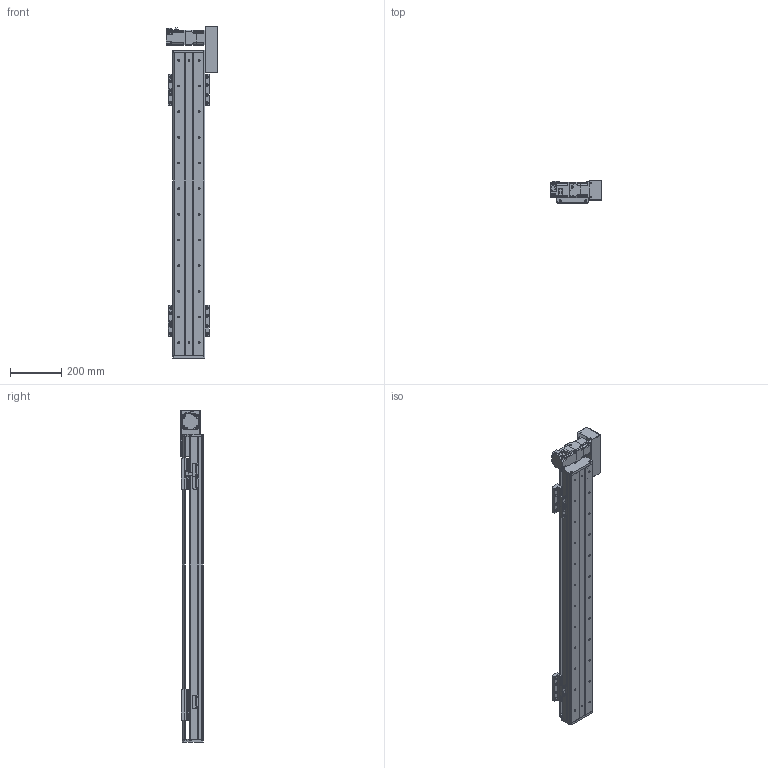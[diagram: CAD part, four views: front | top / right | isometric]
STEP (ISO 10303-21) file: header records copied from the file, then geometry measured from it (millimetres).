
FILE_DESCRIPTION(/* description */ (''),/* implementation_level */ '2;1');
FILE_NAME(/* name */ 'C:\Users\PC\Desktop\3D도면\STEP\STEP\DSB125-R2G-W0900-L.stp',/* time_stamp */ '2018-06-13T15:57:44+09:00',/* author */ ('PC'),/* organization */ (''),/* preprocessor_version */ 'ST-DEVELOPER v16.5',/* originating_system */ 'Autodesk Inventor 2017',/* authorisation */ '');
FILE_SCHEMA (('AUTOMOTIVE_DESIGN { 1 0 10303 214 3 1 1 }'));
Length unit declared in the file: millimetre
Products named in the file (12): DSB125-L2G-W0900-R_MIR; DSB125-BASE_MIR; DSB125-FRONT COVER_MIR; DSB125-REAR COVER_MIR; DSB125-UP COVER_MIR; DSB125-TABLE(MSB15S)_MIR; hg-kr23__MIR; ab0601-p0401200402_MIR; 13-BELT COVER_MIR; DSR125-SENSOR DOG_MIR; pm-y65_step_MIR; SENSOR BRACKET(EE-SX674A)_MIR
Assembly tree (16 placements, depth 2):
  DSB125-L2G-W0900-R_MIR
    DSB125-BASE_MIR
    DSB125-FRONT COVER_MIR
    DSB125-REAR COVER_MIR
    DSB125-UP COVER_MIR
    DSB125-TABLE(MSB15S)_MIR  x2
    hg-kr23__MIR
    ab0601-p0401200402_MIR
    13-BELT COVER_MIR
    DSR125-SENSOR DOG_MIR
    pm-y65_step_MIR  x3
    SENSOR BRACKET(EE-SX674A)_MIR  x3
Bounding box: 202.1 x 88 x 1294 mm (x, y, z)
Volume: 4538754.6 mm3; surface area: 1307990.4 mm2
Topology: 17 solids, 17 shells, 1659 faces, 4500 edges, 2966 vertices
Faces by surface type: plane 903, cylinder 630, cone 114, sphere 8, torus 4
Full cylindrical faces by diameter (mm): 2.459 x20, 3.242 x16, 3.5 x6, 4 x1, 4.134 x16, 4.2 x4, 4.3 x1, 4.5 x50, 4.917 x20, 5 x22, 5.3 x1, 5.5 x4, 5.6 x8, 5.8 x4, 5.9 x8, 6 x4, 6.6 x22, 6.647 x24, 7.5 x32, 8.5 x8, 8.7 x1, 11 x22, 14 x1, 16 x2, 17 x1, 20 x1, 47 x1, 50 x3
Entity records: 35969 total; most frequent: CARTESIAN_POINT 6483, DIRECTION 6106, ORIENTED_EDGE 5474, EDGE_CURVE 2737, AXIS2_PLACEMENT_3D 2241, VERTEX_POINT 1946, EDGE_LOOP 1669, LINE 1624
